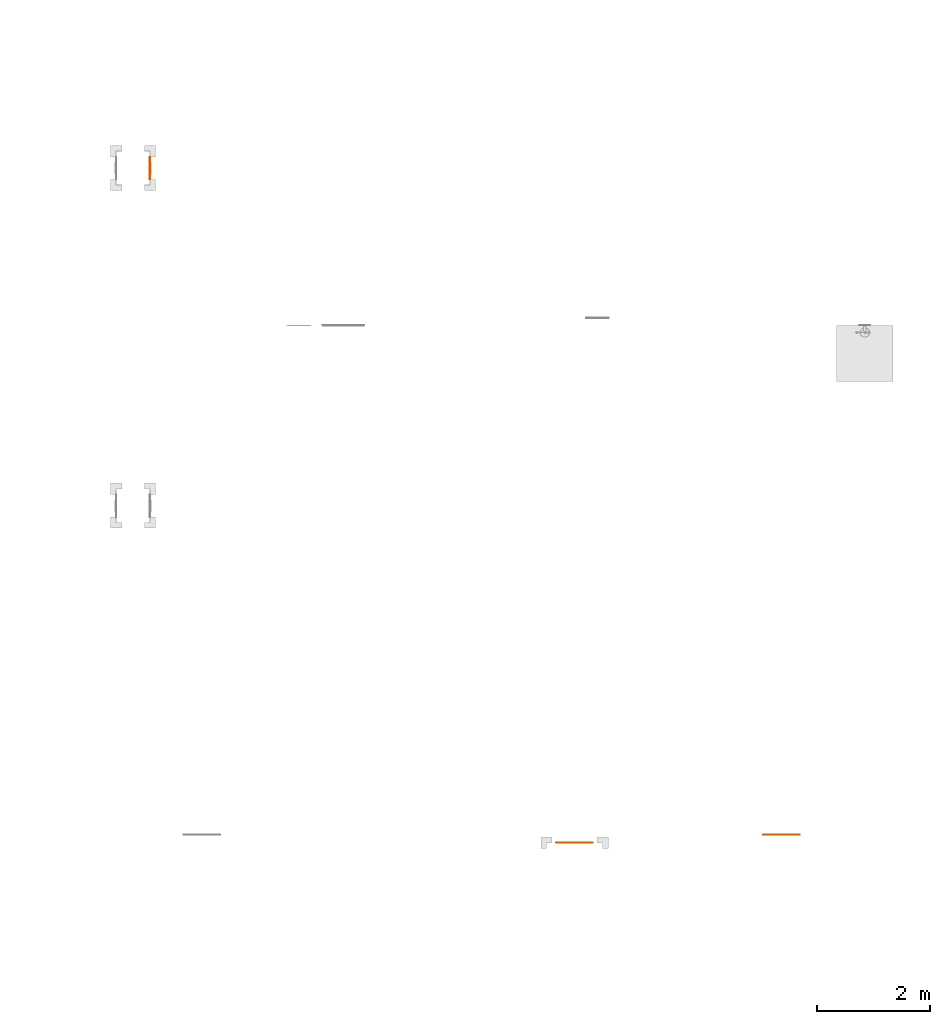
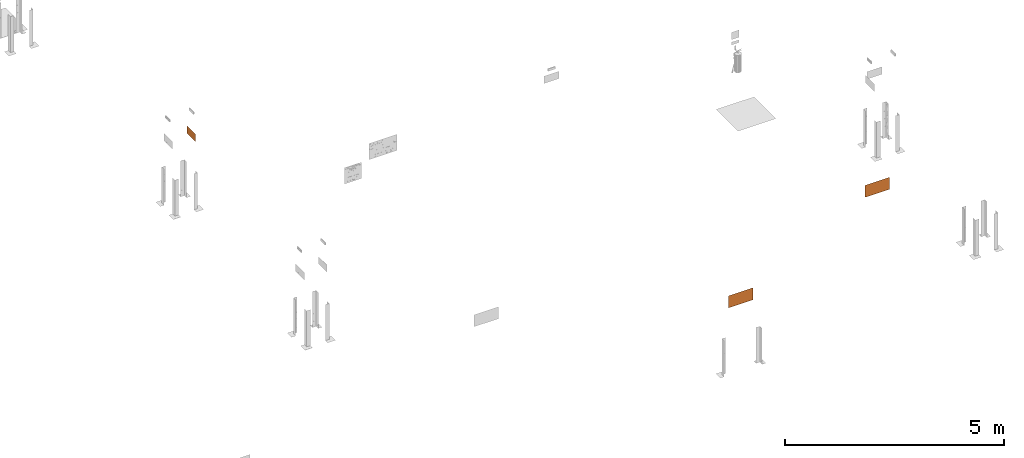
# One storey, part 85 of 119: 3 proxies.
"""IFC2X3 building model written with IfcOpenShell, lengths in metres."""

from ifc_helpers import new_model, entity, si_unit, converted_unit, derived_unit, direction, frame, frame_2d, origin, origin_2d_with_axis, place, context, subcontext, project, spatial, polyline, circle_curve, parameter, trimmed, segment, composite_curve, rectangle, outline, extrude, source, transform, mapped, material, material_list, type_object, type_shapes, element, save


model = new_model("IFC2X3")

# Units and contexts
model_context = context("Model", 3, precision=1e-05, world=origin(), true_north=direction((6.12303176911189e-17, 1.0)))
body_context = subcontext(model_context, "Body", "Model", "MODEL_VIEW")
ifc_project = project(units=[si_unit("LENGTHUNIT", "METRE"), si_unit("AREAUNIT", "SQUARE_METRE"), si_unit("VOLUMEUNIT", "CUBIC_METRE"), converted_unit("PLANEANGLEUNIT", "DEGREE", entity("IfcRatioMeasure", 0.0174532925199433), si_unit("PLANEANGLEUNIT", "RADIAN"), dimensions=[0, 0, 0, 0, 0, 0, 0]), si_unit("MASSUNIT", "GRAM", prefix="KILO"), derived_unit("MASSDENSITYUNIT", [(si_unit("MASSUNIT", "GRAM", prefix="KILO"), 1), (si_unit("LENGTHUNIT", "METRE"), -3)]), derived_unit("MOMENTOFINERTIAUNIT", [(si_unit("LENGTHUNIT", "METRE"), 4)]), si_unit("TIMEUNIT", "SECOND"), si_unit("FREQUENCYUNIT", "HERTZ"), si_unit("THERMODYNAMICTEMPERATUREUNIT", "DEGREE_CELSIUS"), derived_unit("THERMALTRANSMITTANCEUNIT", [(si_unit("MASSUNIT", "GRAM", prefix="KILO"), 1), (si_unit("THERMODYNAMICTEMPERATUREUNIT", "KELVIN"), -1), (si_unit("TIMEUNIT", "SECOND"), -3)]), derived_unit("VOLUMETRICFLOWRATEUNIT", [(si_unit("LENGTHUNIT", "METRE"), 3), (si_unit("TIMEUNIT", "SECOND"), -1)]), si_unit("ELECTRICCURRENTUNIT", "AMPERE"), si_unit("ELECTRICVOLTAGEUNIT", "VOLT"), si_unit("POWERUNIT", "WATT"), si_unit("FORCEUNIT", "NEWTON", prefix="KILO"), si_unit("ILLUMINANCEUNIT", "LUX"), si_unit("LUMINOUSFLUXUNIT", "LUMEN"), si_unit("LUMINOUSINTENSITYUNIT", "CANDELA"), derived_unit("USERDEFINED", [(si_unit("MASSUNIT", "GRAM", prefix="KILO"), -1), (si_unit("LENGTHUNIT", "METRE"), -2), (si_unit("TIMEUNIT", "SECOND"), 3), (si_unit("LUMINOUSFLUXUNIT", "LUMEN"), 1)]), derived_unit("LINEARVELOCITYUNIT", [(si_unit("LENGTHUNIT", "METRE"), 1), (si_unit("TIMEUNIT", "SECOND"), -1)]), si_unit("PRESSUREUNIT", "PASCAL"), derived_unit("USERDEFINED", [(si_unit("LENGTHUNIT", "METRE"), -2), (si_unit("MASSUNIT", "GRAM", prefix="KILO"), 1), (si_unit("TIMEUNIT", "SECOND"), -2)]), derived_unit("LINEARFORCEUNIT", [(si_unit("MASSUNIT", "GRAM", prefix="KILO"), 1), (si_unit("LENGTHUNIT", "METRE"), 1), (si_unit("TIMEUNIT", "SECOND"), -2), (si_unit("LENGTHUNIT", "METRE"), -1)]), derived_unit("PLANARFORCEUNIT", [(si_unit("MASSUNIT", "GRAM", prefix="KILO"), 1), (si_unit("LENGTHUNIT", "METRE"), 1), (si_unit("TIMEUNIT", "SECOND"), -2), (si_unit("LENGTHUNIT", "METRE"), -2)])], contexts=[model_context])

# Site, building, storey
site_placement = place(None, origin())
site = spatial("IfcSite", under=ifc_project, at=site_placement, Name="Default", CompositionType="ELEMENT")
building_placement = place(site_placement, origin())
building = spatial("IfcBuilding", under=site, at=building_placement, CompositionType="ELEMENT")
storey_placement = place(building_placement, origin())
storey = spatial("IfcBuildingStorey", under=building, at=storey_placement, Name="PAV. 01 - TÉRREO", CompositionType="ELEMENT", Elevation=0.0)

# Proxies
ifc_material_1 = material(Name="Plastico branco")
ifc_material_2 = material(Name="Plastico Verde")
ifc_material_list_1 = material_list([ifc_material_1, ifc_material_2])
building_element_proxy_type_1 = type_object("IfcBuildingElementProxyType", Name="Sinalização de orientação - S02 - Indicação do sentido da saída de emergência esquerda:Distância 12m", PredefinedType="NOTDEFINED", material=ifc_material_1)
shared_shape_1 = source(origin(), body_context, "Body", "SweptSolid", [
    extrude(outline(polyline([(-0.0269307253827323, -0.024231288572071), (-0.0259628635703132, -0.024231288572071), (-0.0248498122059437, -0.0234083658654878), (-0.0236286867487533, -0.0219305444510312), (-0.0223366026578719, -0.0199658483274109), (-0.0210106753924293, -0.0176823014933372), (-0.0159905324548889, -0.00832626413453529), (-0.0136800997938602, -0.00426313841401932), (-0.0125256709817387, -0.00238736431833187), (-0.0113513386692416, -0.000610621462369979), (-0.0101417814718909, 0.0010707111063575), (-0.00888166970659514, 0.00266026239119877), (-0.00754048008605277, 0.00417640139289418), (-0.00604105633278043, 0.00568273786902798), (-0.00429732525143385, 0.00725153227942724), (-0.00222321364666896, 0.00895504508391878), (0.000267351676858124, 0.010865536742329), (0.0161156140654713, 0.0220225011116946), (0.00541084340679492, 0.027666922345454), (0.004563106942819, 0.0280964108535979), (0.00398677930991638, 0.0283743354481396), (0.00361343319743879, 0.0285356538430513), (0.00337464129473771, 0.0286153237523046), (0.0032019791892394, 0.0286482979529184), (0.00303386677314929, 0.0286578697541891), (0.00283021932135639, 0.0286307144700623), (0.00255516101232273, 0.02854633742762), (0.00217281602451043, 0.0283842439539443), (0.00164730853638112, 0.0281239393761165), (0.000942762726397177, 0.0277449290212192), (-0.0154440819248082, 0.0179800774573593), (-0.0169906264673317, 0.0173662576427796), (-0.0184263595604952, 0.0170104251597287), (-0.0197467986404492, 0.0168906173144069), (-0.0209474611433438, 0.0169848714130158), (-0.0220238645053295, 0.017271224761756), (-0.0229715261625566, 0.0177277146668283), (-0.0237859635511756, 0.0183323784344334), (-0.0244626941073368, 0.0190632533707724), (-0.0249972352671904, 0.0198983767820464), (-0.025385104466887, 0.0208157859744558), (-0.0256218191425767, 0.0217935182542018), (-0.02570289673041, 0.0228096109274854), (-0.0256238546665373, 0.023842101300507), (-0.0253802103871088, 0.024869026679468), (-0.024967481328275, 0.0258684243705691), (-0.0243811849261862, 0.026818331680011), (-0.0236168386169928, 0.0276967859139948), (-0.022669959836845, 0.0284818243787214), (-0.012358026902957, 0.0349145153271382), (-0.0056365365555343, 0.0389186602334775), (-0.00143098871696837, 0.0410123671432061), (0.00133311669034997, 0.0417137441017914), (0.00371952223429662, 0.0415365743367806), (0.00635115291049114, 0.0408174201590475), (0.00926485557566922, 0.0396572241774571), (0.0124569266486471, 0.0381406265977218), (0.0382522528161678, 0.0245317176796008), (0.0409647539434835, 0.0230291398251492), (0.0432264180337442, 0.021505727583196), (0.0450948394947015, 0.0197223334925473), (0.0466276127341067, 0.0174398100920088), (0.0478823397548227, 0.0144190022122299), (0.0489477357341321, 0.0103891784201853), (0.0500145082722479, 0.00497609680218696), (0.0529984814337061, -0.0115815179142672), (0.0687826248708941, -0.0199385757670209), (0.101976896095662, 0.0427561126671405), (0.00232291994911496, 0.0955188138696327), (-0.0513007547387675, -0.00576130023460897), (-0.0561261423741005, -0.00320645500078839), (-0.0853051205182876, -0.0156605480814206), (-0.0628396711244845, -0.0275550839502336), (-0.0734521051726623, -0.0475990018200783), (-0.0904241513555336, -0.0529832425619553), (-0.0204118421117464, -0.0900518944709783), (-0.00292720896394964, -0.0849390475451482), (0.0122206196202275, -0.0929592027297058), (-0.00693758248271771, -0.0971859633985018), (0.00953030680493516, -0.105905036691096), (0.0262018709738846, -0.100361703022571), (0.0628213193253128, -0.0311978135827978), (0.0451218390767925, -0.0218302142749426), (0.0436304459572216, -0.0209809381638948), (0.0424868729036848, -0.020192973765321), (0.041614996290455, -0.0193663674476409), (0.0409386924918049, -0.0184011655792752), (0.0403818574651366, -0.0171974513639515), (0.0398810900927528, -0.0156792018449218), (0.0394075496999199, -0.0138354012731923), (0.0389382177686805, -0.0116659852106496), (0.0366426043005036, 0.000269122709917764), (0.0172569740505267, -0.0138624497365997), (0.0147941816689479, -0.0880984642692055), (-0.000353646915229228, -0.0800783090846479), (-0.000324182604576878, -0.0142849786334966), (-0.0124368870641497, -0.0319051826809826), (-0.0138384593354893, -0.0341119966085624), (-0.0151491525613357, -0.0360250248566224), (-0.0164165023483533, -0.0376353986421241), (-0.0176880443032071, -0.0389342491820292), (-0.0190113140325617, -0.0399127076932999), (-0.0204338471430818, -0.0405619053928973), (-0.0220031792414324, -0.0408729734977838), (-0.0237668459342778, -0.0408370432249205), (-0.025772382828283, -0.0404452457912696), (-0.0280673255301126, -0.0396887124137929), (-0.0306992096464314, -0.0385585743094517), (-0.0337155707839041, -0.0370459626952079), (-0.0714172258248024, -0.0170844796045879), (-0.0536029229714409, -0.0101094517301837), (-0.0269307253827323, -0.024231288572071)]), holes=[composite_curve([segment(trimmed(circle_curve(frame_2d((0.0517161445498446, 0.0359195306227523), x_axis=(0.883770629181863, -0.46792037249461)), 0.0134), [parameter(180.0)], [parameter(360.0)], True, "PARAMETER"), False, "CONTINUOUS"), segment(trimmed(circle_curve(frame_2d((0.0517161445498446, 0.0359195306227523), x_axis=(0.883770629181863, -0.46792037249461)), 0.0134), [parameter(2.03555499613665e-13)], [parameter(180.0)], True, "PARAMETER"), False, "CONTINUOUS")], self_intersect=False)]), frame((0.112957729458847, -0.00110000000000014, 1.90431633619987), z_axis=(0.0, 1.0, 0.0), x_axis=(-0.883770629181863, 0.0, 0.46792037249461)), (0.0, 0.0, 1.0), 0.0011),
    extrude(outline(polyline([(-0.197500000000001, -0.102500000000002), (0.197500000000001, -0.102500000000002), (0.197500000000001, 0.102500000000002), (-0.197500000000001, 0.102500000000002), (-0.197500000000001, -0.102500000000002)]), holes=[polyline([(-0.190000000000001, -0.0950000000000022), (-0.190000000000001, 0.0949999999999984), (0.189999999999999, 0.0949999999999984), (0.189999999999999, -0.0950000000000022), (-0.190000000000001, -0.0950000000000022)])]), frame((0.0, -0.0011, 1.9025), z_axis=(0.0, 1.0, 0.0), x_axis=(1.0, 0.0, 0.0)), (0.0, 0.0, 1.0), 0.0011),
    extrude(rectangle(XDim=0.38, YDim=0.001, at=origin_2d_with_axis()), frame((0.0, -0.0005, 1.8075)), (0.0, 0.0, 1.0), 0.190000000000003),
    extrude(outline(polyline([(-0.0341511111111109, -0.0575999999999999), (0.016628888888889, -0.0575999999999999), (-0.0218311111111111, -0.0191399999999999), (0.0852288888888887, -0.0191399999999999), (0.0852288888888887, 0.0191400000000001), (-0.0218311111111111, 0.0191400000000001), (0.016628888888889, 0.0576000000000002), (-0.0341511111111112, 0.0576000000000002), (-0.0917511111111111, 0.0), (-0.0341511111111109, -0.0575999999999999)])), frame((-0.0852288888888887, -0.0011, 1.9025), z_axis=(0.0, 1.0, 0.0), x_axis=(1.0, 0.0, 0.0)), (0.0, 0.0, 1.0), 0.0011),
])
type_shapes(building_element_proxy_type_1, [shared_shape_1])
proxy_1_placement = place(storey_placement, frame((66.4737997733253, 6.42504972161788, 0.0), z_axis=(0.0, 0.0, 1.0), x_axis=(0.0, 1.0, 0.0)))
element("IfcBuildingElementProxy", 1, at=proxy_1_placement, inside=storey, type_object=building_element_proxy_type_1, material=ifc_material_list_1, Name="Sinalização de orientação - S02 - Indicação do sentido da saída de emergência esquerda:Distância 12m", ObjectType="Sinalização de orientação - S02 - Indicação do sentido da saída de emergência esquerda:Distância 12m", context=body_context, shape_type="MappedRepresentation", body=[
    mapped(shared_shape_1, transform((0.0, 0.0, 0.0), scale=1.0)),
])
ifc_material_list_2 = material_list([ifc_material_1, ifc_material_2])
building_element_proxy_type_2 = type_object("IfcBuildingElementProxyType", Name="Sinalização de orientação - S01 - Indicação do sentido da saída de emergência direita:Distância 20m", PredefinedType="NOTDEFINED", material=ifc_material_1)
shared_shape_2 = source(origin(), body_context, "Body", "SweptSolid", [
    extrude(outline(polyline([(0.0207163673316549, 0.0565745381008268), (0.0192937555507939, 0.0558213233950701), (0.0182981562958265, 0.0537455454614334), (0.0176533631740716, 0.05062305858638), (0.0172831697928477, 0.0467297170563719), (0.0171113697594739, 0.0423413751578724), (0.017013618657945, 0.0246825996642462), (0.016779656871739, 0.0169123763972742), (0.0165425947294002, 0.0132568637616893), (0.0161992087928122, 0.00973142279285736), (0.0157297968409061, 0.00631880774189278), (0.0151146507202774, 0.00300175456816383), (0.014323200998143, -0.000270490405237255), (0.0132915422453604, -0.00365146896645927), (0.0119493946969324, -0.00731437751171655), (0.0102264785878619, -0.0114324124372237), (0.00805251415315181, -0.0161787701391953), (0.00535722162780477, -0.021726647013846), (-0.00655942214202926, -0.0449113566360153), (0.0151479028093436, -0.0448486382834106), (0.0162113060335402, -0.0448086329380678), (0.0168856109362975, -0.044755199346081), (0.0172986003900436, -0.0446864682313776), (0.0175780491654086, -0.0446005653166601), (0.0178325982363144, -0.0444838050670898), (0.0181107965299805, -0.0442854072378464), (0.0184494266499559, -0.0439473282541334), (0.0188852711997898, -0.0434115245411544), (0.0194551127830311, -0.0426199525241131), (0.0201957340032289, -0.0415145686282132), (0.02233644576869, -0.038130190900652), (0.0366826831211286, -0.0144090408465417), (0.0384781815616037, -0.0123032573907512), (0.0403115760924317, -0.0106629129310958), (0.0421591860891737, -0.00945921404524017), (0.0439973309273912, -0.00866336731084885), (0.0458023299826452, -0.00824657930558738), (0.0475505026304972, -0.00818005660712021), (0.0492181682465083, -0.0084350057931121), (0.0507816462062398, -0.00898263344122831), (0.0522172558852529, -0.00979414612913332), (0.0535013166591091, -0.0108407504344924), (0.0546101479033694, -0.0120936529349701), (0.0555200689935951, -0.0135240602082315), (0.0562073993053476, -0.0151031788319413), (0.0566484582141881, -0.0168022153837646), (0.0568195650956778, -0.0185923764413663), (0.056697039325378, -0.0204448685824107), (0.05625720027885, -0.0223308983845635), (0.0554763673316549, -0.0242216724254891), (0.0453254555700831, -0.041701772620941), (0.0385619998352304, -0.0528181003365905), (0.0340098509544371, -0.0591684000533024), (0.0304928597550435, -0.0623504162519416), (0.0268473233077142, -0.0639471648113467), (0.0224195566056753, -0.0649381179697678), (0.017233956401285, -0.0655003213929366), (0.0113618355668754, -0.0657553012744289), (-0.037144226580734, -0.0658268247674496), (-0.0423005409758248, -0.0657291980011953), (-0.0468104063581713, -0.0652500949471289), (-0.0509445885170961, -0.0640828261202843), (-0.0549738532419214, -0.0619207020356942), (-0.0591689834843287, -0.0584570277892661), (-0.0638710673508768, -0.0533629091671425), (-0.0696516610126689, -0.0462366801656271), (-0.0869232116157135, -0.0242216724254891), (-0.116627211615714, -0.0242216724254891), (-0.116627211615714, -0.142206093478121), (0.0709104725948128, -0.142206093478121), (0.0709104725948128, 0.0483918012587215), (0.079991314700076, 0.0483918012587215), (0.113187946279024, 0.089405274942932), (0.0709104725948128, 0.089405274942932), (0.0709104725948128, 0.127125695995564), (0.0916666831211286, 0.148247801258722), (-0.040088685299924, 0.148247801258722), (-0.0618095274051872, 0.127125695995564), (-0.0903160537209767, 0.127125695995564), (-0.0639958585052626, 0.148247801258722), (-0.0964364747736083, 0.148247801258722), (-0.116627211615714, 0.127125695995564), (-0.116627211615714, -0.00303304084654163), (-0.0833215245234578, -0.00302782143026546), (-0.0804684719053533, -0.00311548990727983), (-0.0781743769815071, -0.00338372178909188), (-0.0762495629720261, -0.00392019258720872), (-0.0745043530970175, -0.00481257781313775), (-0.0727491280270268, -0.00614851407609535), (-0.0708315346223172, -0.00799040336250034), (-0.0687006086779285, -0.0103319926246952), (-0.0663224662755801, -0.0131554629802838), (-0.0536600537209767, -0.0289117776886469), (-0.0361636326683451, 0.00694590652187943), (-0.0903160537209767, 0.117978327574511), (-0.0618095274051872, 0.117978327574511), (-0.0106507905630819, 0.0212490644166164), (-0.00655942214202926, 0.0565745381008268), (-0.00621671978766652, 0.0609089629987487), (-0.00577896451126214, 0.0647408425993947), (-0.00516938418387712, 0.0680941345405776), (-0.00431120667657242, 0.0709927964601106), (-0.00312765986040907, 0.0734607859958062), (-0.00154197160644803, 0.0755220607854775), (0.00052263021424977, 0.0772005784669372), (0.00314291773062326, 0.0785202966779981), (0.00639566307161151, 0.0795051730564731), (0.0103576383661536, 0.0801791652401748), (0.0151056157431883, 0.0805662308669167), (0.0207163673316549, 0.0806903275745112), (0.0916666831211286, 0.0806903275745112), (0.0709104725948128, 0.0565745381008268), (0.0207163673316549, 0.0565745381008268)]), holes=[composite_curve([segment(trimmed(circle_curve(frame_2d((-0.0480718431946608, -0.0930431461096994), x_axis=(-1.0, 0.0)), 0.0222863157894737), [parameter(180.0)], [parameter(0.0)], True, "PARAMETER"), False, "CONTINUOUS"), segment(trimmed(circle_curve(frame_2d((-0.0480718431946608, -0.0930431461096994), x_axis=(-1.0, 0.0)), 0.0222863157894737), [parameter(3.56222124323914e-13)], [parameter(180.0)], True, "PARAMETER"), False, "CONTINUOUS")], self_intersect=False)]), frame((-0.18787689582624, -0.00110000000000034, 1.9685208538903), z_axis=(0.0, -1.0, 0.0), x_axis=(-1.0, 0.0, 0.0)), (0.0, 0.0, -1.0), 0.0011),
    extrude(outline(polyline([(-0.165500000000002, -0.323500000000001), (0.165500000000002, -0.323500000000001), (0.165500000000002, 0.323500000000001), (-0.165500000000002, 0.323500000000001), (-0.165500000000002, -0.323500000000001)]), holes=[polyline([(-0.158000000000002, -0.316000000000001), (-0.158000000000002, 0.315999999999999), (0.157999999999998, 0.315999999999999), (0.157999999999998, -0.316000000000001), (-0.158000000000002, -0.316000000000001)])]), frame((0.0, -0.0011, 1.9655), z_axis=(0.0, 1.0, 0.0), x_axis=(0.0, 0.0, -1.0)), (0.0, 0.0, 1.0), 0.0011),
    extrude(rectangle(XDim=0.001, YDim=0.632, at=origin_2d_with_axis()), frame((0.0, -0.0005, 1.8075), z_axis=(0.0, 0.0, 1.0), x_axis=(0.0, 1.0, 0.0)), (0.0, 0.0, 1.0), 0.316000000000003),
    extrude(outline(polyline([(-0.0275766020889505, -0.107902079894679), (0.107902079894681, -0.107902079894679), (0.107902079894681, 0.027576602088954), (0.048183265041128, 0.0872954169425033), (0.0481832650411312, -0.0031648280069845), (-0.0777225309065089, 0.122740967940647), (-0.122740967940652, 0.0777225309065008), (0.00316482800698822, -0.0481832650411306), (-0.0872954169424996, -0.0481832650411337), (-0.0275766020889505, -0.107902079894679)])), frame((0.141749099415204, -0.0011, 1.9655), z_axis=(0.0, 1.0, 0.0), x_axis=(0.707106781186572, 0.0, -0.707106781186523)), (0.0, 0.0, 1.0), 0.0011),
])
type_shapes(building_element_proxy_type_2, [shared_shape_2])
proxy_2_placement = place(storey_placement, frame((74.018789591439, -5.56159136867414, 0.0), z_axis=(0.0, 0.0, 1.0), x_axis=(-1.0, 0.0, 0.0)))
element("IfcBuildingElementProxy", 2, at=proxy_2_placement, inside=storey, type_object=building_element_proxy_type_2, material=ifc_material_list_2, Name="Sinalização de orientação - S01 - Indicação do sentido da saída de emergência direita:Distância 20m", ObjectType="Sinalização de orientação - S01 - Indicação do sentido da saída de emergência direita:Distância 20m", context=body_context, shape_type="MappedRepresentation", body=[
    mapped(shared_shape_2, transform((0.0, 0.0, 0.0), scale=1.0)),
])
ifc_material_list_3 = material_list([ifc_material_1, ifc_material_2])
building_element_proxy_type_3 = type_object("IfcBuildingElementProxyType", Name="Sinalização de orientação - S12 - Saída de emergência:Distância 20m", PredefinedType="NOTDEFINED", material=ifc_material_1)
shared_shape_3 = source(origin(), body_context, "Body", "SweptSolid", [
    extrude(outline(polyline([(0.0376954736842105, -0.0454956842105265), (0.0705927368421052, -0.0454956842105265), (0.0183030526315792, 0.105552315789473), (-0.0183529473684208, 0.105552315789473), (-0.0714076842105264, -0.0454956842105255), (-0.0368472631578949, -0.0454956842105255), (-0.027200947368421, -0.0145609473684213), (0.0272175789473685, -0.0145609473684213), (0.0376954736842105, -0.0454956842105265)]), holes=[polyline([(-0.0183529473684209, 0.0115506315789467), (0.000141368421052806, 0.0715241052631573), (0.0183030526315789, 0.0115506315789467), (-0.0183529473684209, 0.0115506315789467)])]), frame((0.227960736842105, -0.0011, 3.63618684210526), z_axis=(0.0, 1.0, 0.0), x_axis=(-1.0, 0.0, 0.0)), (0.0, 0.0, 1.0), 0.0011),
    extrude(outline(polyline([(0.00169642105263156, -0.0153010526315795), (0.0223528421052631, -0.0153010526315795), (0.00329305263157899, 0.0153010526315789), (-0.0273423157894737, 0.0153010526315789), (0.00169642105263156, -0.0153010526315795)])), frame((0.0069519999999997, -0.0011, 3.77250757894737), z_axis=(0.0, 1.0, 0.0), x_axis=(-1.0, 0.0, 0.0)), (0.0, 0.0, 1.0), 0.0011),
    extrude(rectangle(XDim=0.0011, YDim=0.030968, at=origin_2d_with_axis()), frame((-0.00367557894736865, -0.00055, 3.59069115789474), z_axis=(0.0, 0.0, 1.0), x_axis=(0.0, 1.0, 0.0)), (0.0, 0.0, 1.0), 0.151048),
    extrude(outline(polyline([(0.0376247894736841, -0.0454956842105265), (0.0704887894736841, -0.0454956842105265), (0.0182323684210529, 0.105552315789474), (-0.0184568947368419, 0.105552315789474), (-0.0707798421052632, -0.0454956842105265), (-0.0369512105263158, -0.0454956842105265), (-0.0273048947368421, -0.0145609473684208), (0.0271468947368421, -0.0145609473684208), (0.0376247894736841, -0.0454956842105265)]), holes=[polyline([(-0.018456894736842, 0.0115506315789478), (3.74210526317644e-05, 0.0715241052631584), (0.0182323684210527, 0.0115506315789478), (-0.018456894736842, 0.0115506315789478)])]), frame((-0.101049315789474, -0.0011, 3.63618684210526), z_axis=(0.0, 1.0, 0.0), x_axis=(-1.0, 0.0, 0.0)), (0.0, 0.0, 1.0), 0.0011),
    extrude(outline(polyline([(-0.0987312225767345, -0.0692916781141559), (-0.0390903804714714, -0.0692916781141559), (-0.0259090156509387, -0.0690015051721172), (-0.015711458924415, -0.0679295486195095), (-0.00762154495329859, -0.0657736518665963), (-0.000763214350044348, -0.062231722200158), (0.00552600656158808, -0.0571304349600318), (0.0112471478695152, -0.0506952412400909), (0.0162735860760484, -0.0432285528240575), (0.0204786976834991, -0.0350327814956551), (0.0237358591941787, -0.0264103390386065), (0.0259649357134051, -0.0176406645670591), (0.0272763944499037, -0.00890900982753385), (0.0278295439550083, -0.000376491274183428), (0.0277836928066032, 0.00779577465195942), (0.0272981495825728, 0.0154466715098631), (0.0265127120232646, 0.0224446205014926), (0.0253600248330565, 0.0289716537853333), (0.0236478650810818, 0.0353988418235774), (0.0211822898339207, 0.0420998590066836), (0.017769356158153, 0.0494483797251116), (0.0131642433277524, 0.0577443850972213), (0.00648808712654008, 0.0663694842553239), (-0.00356821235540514, 0.0740821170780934), (-0.0183219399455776, 0.0796288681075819), (-0.0390903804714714, 0.0817563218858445), (-0.0987312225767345, 0.0817563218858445), (-0.0987312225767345, -0.0692916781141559)]), holes=[polyline([(-0.0677299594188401, 0.0556447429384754), (-0.0390903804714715, 0.0556447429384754), (-0.0307359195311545, 0.0546713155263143), (-0.0238840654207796, 0.0520574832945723), (-0.0183755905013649, 0.0482629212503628), (-0.0140512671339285, 0.0437473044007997), (-0.0107521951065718, 0.0389334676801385), (-0.00832187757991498, 0.033973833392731), (-0.0066048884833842, 0.0289003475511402), (-0.00544580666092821, 0.0237444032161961), (-0.00468921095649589, 0.0185373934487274), (-0.00418569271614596, 0.0133093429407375), (-0.00388873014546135, 0.00806686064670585), (-0.00383818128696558, 0.00279689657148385), (-0.00407658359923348, -0.00251420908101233), (-0.00464647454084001, -0.00788011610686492), (-0.00559039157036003, -0.0133144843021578), (-0.00695529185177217, -0.0188075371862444), (-0.00881691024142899, -0.0241968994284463), (-0.0112625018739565, -0.0292591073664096), (-0.0143793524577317, -0.0337705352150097), (-0.0182547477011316, -0.037507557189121), (-0.0229507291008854, -0.0402659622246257), (-0.0282499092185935, -0.0420564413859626), (-0.0337610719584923, -0.0430233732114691), (-0.0390903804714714, -0.0433131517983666), (-0.0677299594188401, -0.0433131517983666), (-0.0677299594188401, 0.0556447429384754)])]), frame((0.133025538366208, -0.0011, 3.67244747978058), z_axis=(0.0, 1.0, 0.0), x_axis=(1.0, 0.0, 0.0)), (0.0, 0.0, 1.0), 0.0011),
    extrude(outline(polyline([(-0.0574831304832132, 0.0312104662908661), (-0.0278789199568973, 0.0312104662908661), (-0.0266149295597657, 0.036124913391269), (-0.0251060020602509, 0.040204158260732), (-0.0233574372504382, 0.043538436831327), (-0.0213745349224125, 0.0462179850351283), (-0.0191625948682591, 0.048333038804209), (-0.0167269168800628, 0.0499738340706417), (-0.0140728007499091, 0.0512306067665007), (-0.0112055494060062, 0.0521935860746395), (-0.00813940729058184, 0.0529337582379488), (-0.00491714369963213, 0.0534607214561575), (-0.00158720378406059, 0.0537718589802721), (0.00180196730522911, 0.0538645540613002), (0.00520192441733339, 0.0537361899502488), (0.00856422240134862, 0.0533841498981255), (0.0118404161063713, 0.0528058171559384), (0.0149820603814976, 0.0519985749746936), (0.0179380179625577, 0.0509495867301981), (0.0206451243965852, 0.0496003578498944), (0.0230368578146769, 0.0478796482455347), (0.0250466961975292, 0.0457162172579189), (0.0266081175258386, 0.043038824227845), (0.027654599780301, 0.039776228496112), (0.0281196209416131, 0.0358571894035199), (0.027936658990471, 0.0312104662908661), (0.0270808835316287, 0.0286066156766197), (0.0255323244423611, 0.0263499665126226), (0.0233445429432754, 0.0243963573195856), (0.020571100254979, 0.0227016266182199), (0.0172655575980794, 0.0212216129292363), (0.0134814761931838, 0.0199121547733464), (0.00927241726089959, 0.0187290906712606), (0.00469194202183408, 0.0176282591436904), (-0.0162655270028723, 0.0131619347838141), (-0.021854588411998, 0.0117970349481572), (-0.0274211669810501, 0.0102287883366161), (-0.0328768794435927, 0.00840313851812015), (-0.0381333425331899, 0.00626602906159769), (-0.0431021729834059, 0.00376340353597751), (-0.047694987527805, 0.000841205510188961), (-0.051823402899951, -0.00255462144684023), (-0.0553990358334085, -0.00647813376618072), (-0.0583335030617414, -0.0109833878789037), (-0.0605384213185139, -0.0161244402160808), (-0.0619254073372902, -0.0219553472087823), (-0.0624060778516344, -0.0285301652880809), (-0.0614580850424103, -0.0401353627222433), (-0.0587034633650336, -0.050021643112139), (-0.0542724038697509, -0.0582833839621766), (-0.048295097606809, -0.0650149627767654), (-0.0409017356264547, -0.0703107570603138), (-0.0322225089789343, -0.0742651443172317), (-0.0223876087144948, -0.0769725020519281), (-0.0115272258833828, -0.0785272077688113), (0.00022844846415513, -0.0790236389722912), (0.0105685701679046, -0.0784476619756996), (0.0204533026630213, -0.0766900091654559), (0.0296795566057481, -0.0737177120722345), (0.0380442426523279, -0.0694978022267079), (0.0453442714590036, -0.0639973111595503), (0.0513765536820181, -0.0571832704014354), (0.0559379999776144, -0.0490227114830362), (0.0588255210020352, -0.0394826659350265), (0.0598360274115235, -0.0285301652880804), (0.0296663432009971, -0.0285301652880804), (0.0292112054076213, -0.0336041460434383), (0.0279224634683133, -0.0379372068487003), (0.0259151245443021, -0.0415888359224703), (0.023304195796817, -0.0446185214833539), (0.0202046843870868, -0.047085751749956), (0.0167315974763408, -0.0490500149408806), (0.0129999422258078, -0.0505707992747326), (0.00912472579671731, -0.0517075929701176), (0.00521918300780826, -0.0525188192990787), (0.00135318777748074, -0.0530368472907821), (-0.00244824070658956, -0.0532670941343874), (-0.00616215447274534, -0.053213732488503), (-0.00976560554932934, -0.0528809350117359), (-0.0132356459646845, -0.0522728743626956), (-0.0165493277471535, -0.0513937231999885), (-0.0196837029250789, -0.0502476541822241), (-0.0226158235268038, -0.0488388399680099), (-0.0253148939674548, -0.0471644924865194), (-0.0277033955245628, -0.0451803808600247), (-0.029686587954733, -0.0428269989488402), (-0.0311697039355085, -0.0400448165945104), (-0.0320579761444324, -0.036774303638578), (-0.0322566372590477, -0.0329559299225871), (-0.0316709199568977, -0.0285301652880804), (-0.0303724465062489, -0.0255638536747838), (-0.0278577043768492, -0.0229636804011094), (-0.0243560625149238, -0.02069431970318), (-0.0200968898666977, -0.0187204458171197), (-0.0153095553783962, -0.0170067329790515), (-0.0102234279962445, -0.0155178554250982), (-0.00506787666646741, -0.014218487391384), (0.0142120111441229, -0.010006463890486), (0.0187157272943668, -0.00893032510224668), (0.0231174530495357, -0.0077357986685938), (0.0274294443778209, -0.00636831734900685), (0.031663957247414, -0.00477331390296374), (0.0358332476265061, -0.00289622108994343), (0.0399331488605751, -0.000678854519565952), (0.0438729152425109, 0.00195603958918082), (0.047533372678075, 0.00509197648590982), (0.0507953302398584, 0.00881247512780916), (0.0535395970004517, 0.0132010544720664), (0.0556469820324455, 0.0183412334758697), (0.0569982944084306, 0.024316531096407), (0.0574743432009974, 0.0312104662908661), (0.0568973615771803, 0.0401466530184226), (0.0551054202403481, 0.048505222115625), (0.0519995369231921, 0.0561595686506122), (0.0474807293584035, 0.0629830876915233), (0.0414500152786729, 0.0688491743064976), (0.0338084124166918, 0.0736312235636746), (0.024456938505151, 0.0772026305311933), (0.013296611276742, 0.0794367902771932), (0.0002284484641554, 0.0802070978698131), (-0.0142842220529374, 0.0789872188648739), (-0.0269292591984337, 0.075473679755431), (-0.0375736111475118, 0.0698867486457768), (-0.0460842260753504, 0.0624466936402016), (-0.0523280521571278, 0.0533737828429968), (-0.0561720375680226, 0.0428882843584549), (-0.0574831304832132, 0.0312104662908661)])), frame((-0.239532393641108, -0.0011, 3.66565669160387), z_axis=(0.0, 1.0, 0.0), x_axis=(-1.0, 0.0, 0.0)), (0.0, 0.0, 1.0), 0.0011),
    extrude(rectangle(XDim=0.001, YDim=0.632, at=origin_2d_with_axis()), frame((0.0, -0.0005, 3.5075), z_axis=(0.0, 0.0, 1.0), x_axis=(0.0, 1.0, 0.0)), (0.0, 0.0, 1.0), 0.316000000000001),
    extrude(outline(polyline([(-0.165500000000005, -0.323499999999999), (0.165500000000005, -0.323499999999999), (0.165500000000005, 0.323499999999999), (-0.165500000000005, 0.323499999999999), (-0.165500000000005, -0.323499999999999)]), holes=[polyline([(-0.157999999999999, -0.315999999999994), (-0.157999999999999, 0.316000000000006), (0.158000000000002, 0.316000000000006), (0.158000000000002, -0.315999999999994), (-0.157999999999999, -0.315999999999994)])]), frame((0.0, -0.001, 3.66550000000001), z_axis=(0.0, 1.0, 0.0), x_axis=(0.0, 0.0, -1.0)), (0.0, 0.0, 1.0), 0.001),
])
type_shapes(building_element_proxy_type_3, [shared_shape_3])
proxy_3_placement = place(storey_placement, frame((77.6962854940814, -5.41661806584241, 0.0), z_axis=(0.0, 0.0, 1.0), x_axis=(-1.0, 0.0, 0.0)))
element("IfcBuildingElementProxy", 3, at=proxy_3_placement, inside=storey, type_object=building_element_proxy_type_3, material=ifc_material_list_3, Name="Sinalização de orientação - S12 - Saída de emergência:Distância 20m", ObjectType="Sinalização de orientação - S12 - Saída de emergência:Distância 20m", context=body_context, shape_type="MappedRepresentation", body=[
    mapped(shared_shape_3, transform((0.0, 0.0, 0.0), scale=1.0)),
])

save(model, "model.ifc")
